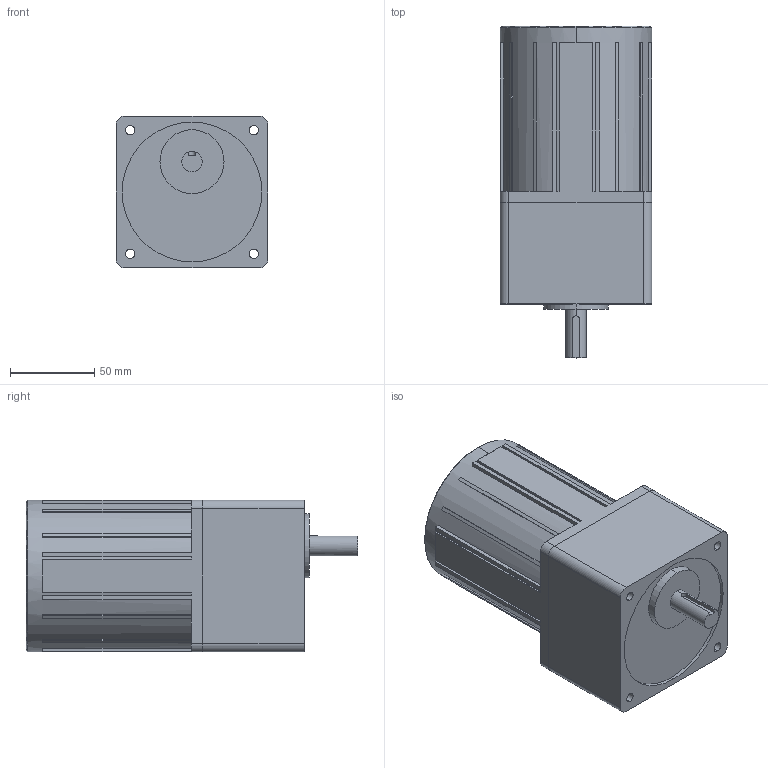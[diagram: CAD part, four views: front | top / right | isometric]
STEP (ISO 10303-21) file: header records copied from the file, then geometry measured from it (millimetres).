
FILE_DESCRIPTION (( 'STEP AP203' ), '1' );
FILE_NAME ('L9HK025B + L9I40PBL.STEP', '2018-09-20T05:32:15', ( '' ), ( '' ), 'SwSTEP 2.0', 'SolidWorks 2017', '' );
FILE_SCHEMA (( 'CONFIG_CONTROL_DESIGN' ));
Length unit declared in the file: millimetre
Products named in the file (1): L9HK025B + L9I40PBL
Bounding box: 90 x 197 x 90 mm (x, y, z)
Volume: 1162122.1 mm3; surface area: 95848.1 mm2
Topology: 2 solids, 2 shells, 149 faces, 406 edges, 268 vertices
Faces by surface type: plane 106, cylinder 41, cone 2
Entity records: 4854 total; most frequent: CARTESIAN_POINT 854, DIRECTION 829, ORIENTED_EDGE 812, EDGE_CURVE 406, VECTOR 279, LINE 279, AXIS2_PLACEMENT_3D 275, VERTEX_POINT 268
